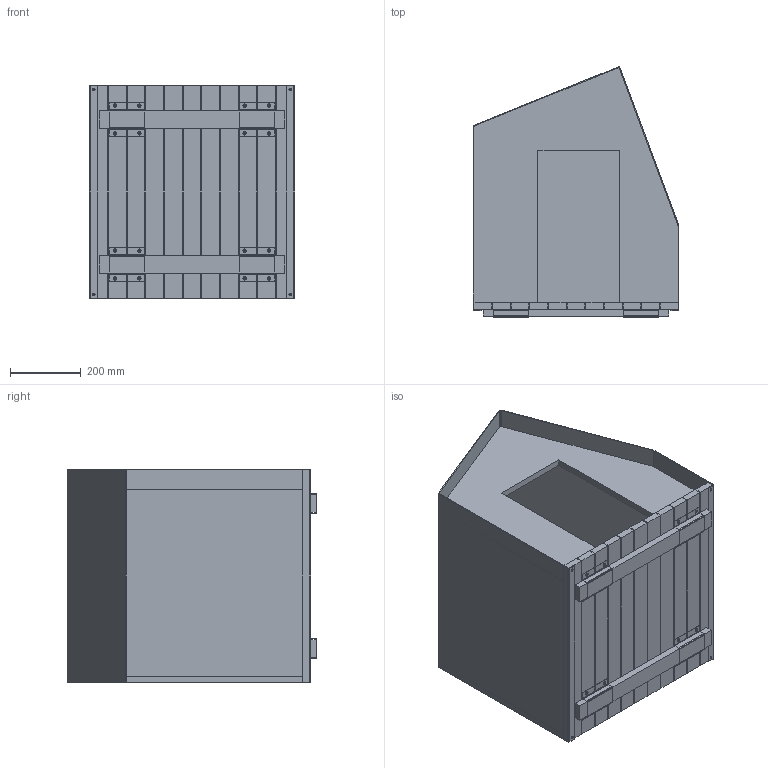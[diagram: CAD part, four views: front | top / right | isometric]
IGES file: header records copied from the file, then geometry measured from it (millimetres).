
Start section: SolidWorks IGES file using analytic representation for surfaces
Global section: file name: \\utenti\Dati Utenti\Tecnico\DC\2D - 3D per sito\3D\DeCastelli-3D-Dog House Nｰ1.igs; native system: SolidWorks 2022; preprocessor: SolidWorks 2022; author: Simonep; date: 240729.120227; units: millimetre
Bounding box: 581 x 706.77 x 600 mm (x, y, z)
Surface area: 4486660.1 mm2 (no closed solid volume)
Topology: 0 solids, 0 shells, 338 faces, 4111 edges, 4111 vertices
Faces by surface type: bspline 238, revolution 100
